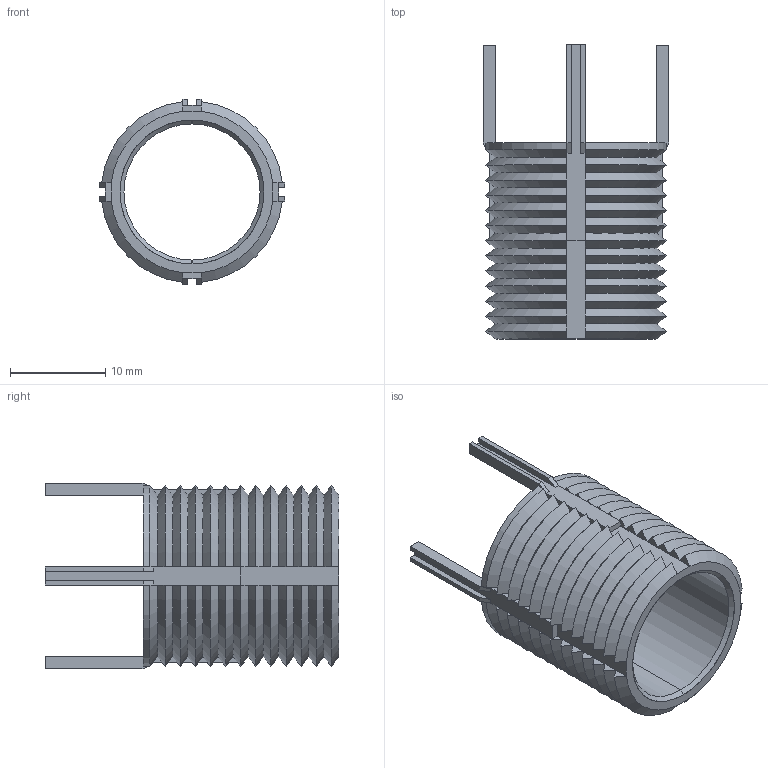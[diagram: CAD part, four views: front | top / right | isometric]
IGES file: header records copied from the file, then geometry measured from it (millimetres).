
Start section: SolidWorks IGES file using analytic representation for surfaces
Global section: file name: C:\Users\IanO\Desktop\TR1575\TR1575_v2_20230420_IGES\TR1575.65907.igs; native system: SolidWorks 2019; preprocessor: SolidWorks 2019; author: IanO; date: 230420.093140; units: inch
Bounding box: 19.5 x 30.86 x 19.5 mm (x, y, z)
Surface area: 3467.1 mm2 (no closed solid volume)
Topology: 0 solids, 0 shells, 268 faces, 1256 edges, 1256 vertices
Faces by surface type: bspline 158, revolution 110
